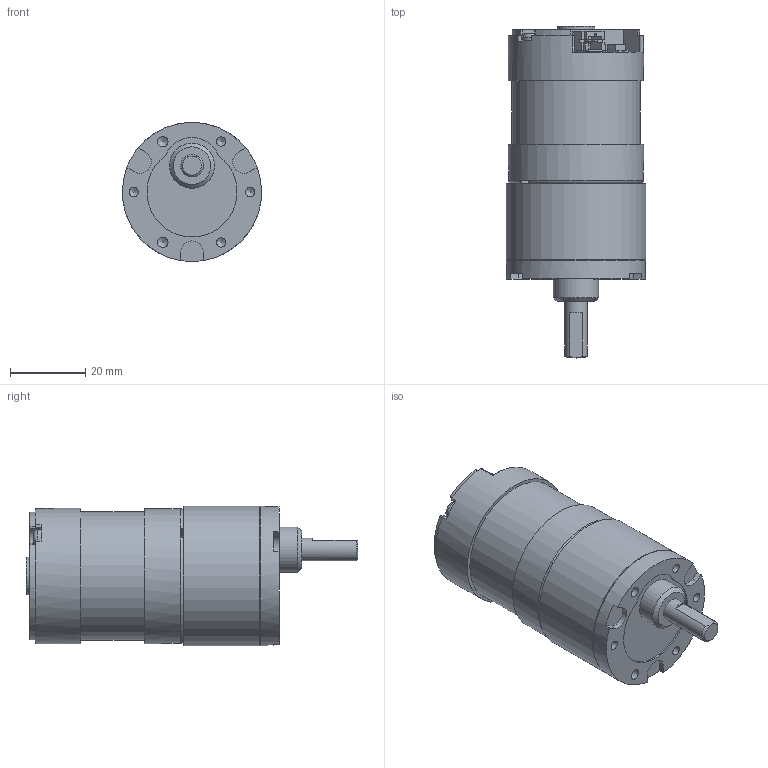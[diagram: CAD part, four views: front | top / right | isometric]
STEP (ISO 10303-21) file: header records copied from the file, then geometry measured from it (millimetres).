
FILE_DESCRIPTION((''),'2;1');
FILE_NAME('\\Servert1600\threepeace\2015homepage\STP\HP-Data_GM_3D_STEP\TP-3641AA,BA,CA,DA,EA（ドライバ内蔵）-KJ-40～100-P000-12,24.stp','2016-11-11T13:09:07',('Administrator'),(''),'Autodesk Inventor 2010','Autodesk Inventor 2010','');
FILE_SCHEMA(('AUTOMOTIVE_DESIGN { 1 0 10303 214 1 1 1 1 }'));
Length unit declared in the file: millimetre
Products named in the file (6): TP-3641AA,BA,CA,DA,EA（ドライバ内蔵）-KJ-40～100-P000-12,24; KJ-4; TP-3641AA,BA,CA-24; TP-3641BA,l; S2B-PH-SM4-TB; SMD-TRIMMERS
Assembly tree (5 placements, depth 3):
  TP-3641AA,BA,CA,DA,EA（ドライバ内蔵）-KJ-40～100-P000-12,24
    KJ-4
    TP-3641AA,BA,CA-24
      TP-3641BA,l
      S2B-PH-SM4-TB
      SMD-TRIMMERS
Bounding box: 37 x 88.3 x 37 mm (x, y, z)
Volume: 66325.9 mm3; surface area: 13822.4 mm2
Topology: 5 solids, 5 shells, 242 faces, 640 edges, 423 vertices
Faces by surface type: plane 152, cylinder 46, bspline 37, torus 4, cone 3
Full cylindrical faces by diameter (mm): 1.9 x1, 2.5 x2, 5 x1, 6 x1, 10 x2, 12 x1, 34.1 x1, 36 x2, 36.6 x1, 37 x2
Entity records: 7709 total; most frequent: CARTESIAN_POINT 1866, DIRECTION 1127, ORIENTED_EDGE 1094, EDGE_CURVE 547, VECTOR 387, LINE 387, VERTEX_POINT 384, AXIS2_PLACEMENT_3D 370
